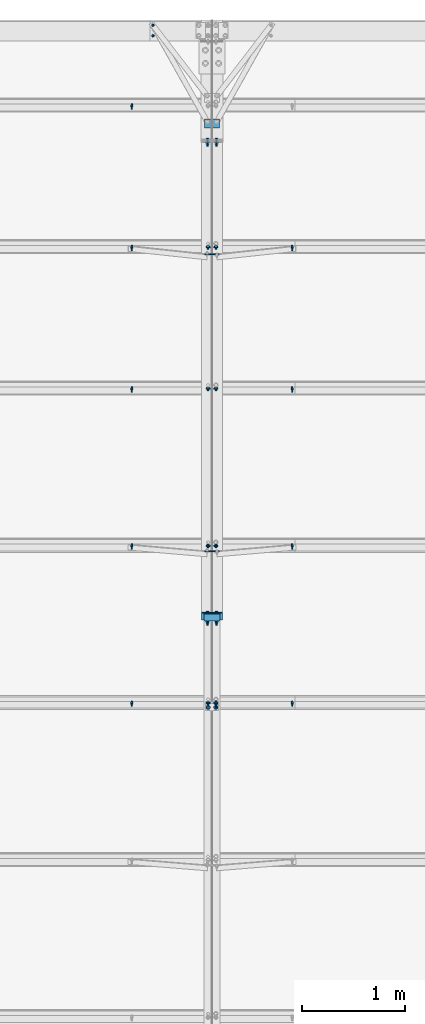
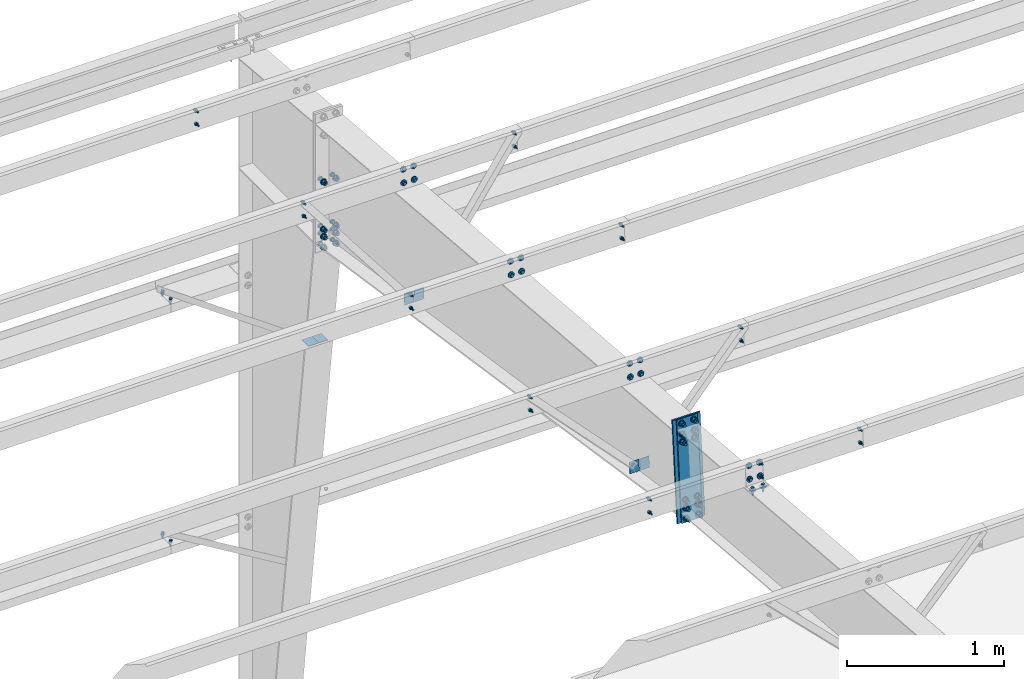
# One storey, part 96 of 185: 26 mechanical fasteners, 8 discrete accessories, 15 elements without a shape of their own.
"""IFC2X3 building model written with IfcOpenShell, lengths in millimetres."""

from ifc_helpers import new_model, si_unit, frame, origin_with_axes, origin_2d_with_axis, place, context, subcontext, project, spatial, polyline, rectangle, circle, outline, extrude, source, transform, mapped, material, type_object, element, aggregate, save


model = new_model("IFC2X3")

# Units and contexts
model_context = context("Model", 3, precision=1e-05, world=origin_with_axes())
body_context = subcontext(model_context, "Body", "Model", "MODEL_VIEW")
ifc_project = project(units=[si_unit("LENGTHUNIT", "METRE", prefix="MILLI"), si_unit("AREAUNIT", "SQUARE_METRE"), si_unit("VOLUMEUNIT", "CUBIC_METRE"), si_unit("MASSUNIT", "GRAM", prefix="KILO"), si_unit("TIMEUNIT", "SECOND"), si_unit("PLANEANGLEUNIT", "RADIAN"), si_unit("SOLIDANGLEUNIT", "STERADIAN"), si_unit("THERMODYNAMICTEMPERATUREUNIT", "DEGREE_CELSIUS"), si_unit("LUMINOUSINTENSITYUNIT", "LUMEN")], contexts=[model_context])

# Site, building, storey
site_placement = place(None, origin_with_axes())
site = spatial("IfcSite", under=ifc_project, at=site_placement, Name="Undefined", CompositionType="ELEMENT")
building_placement = place(site_placement, origin_with_axes())
building = spatial("IfcBuilding", under=site, at=building_placement, Name="Undefined", CompositionType="ELEMENT")
storey_placement = place(building_placement, origin_with_axes())
storey = spatial("IfcBuildingStorey", under=building, at=storey_placement, Name="Undefined", CompositionType="ELEMENT", Elevation=0.0)

# Assembly, mechanical fastener
assembly_1_placement = place(storey_placement, origin_with_axes())
assembly_1 = element("IfcElementAssembly", 1, at=assembly_1_placement, inside=storey, Name="Steel Assembly", AssemblyPlace="NOTDEFINED", PredefinedType="RIGID_FRAME")
ifc_material_1 = material(Name="Undefined")
discrete_accessory_type_1 = type_object("IfcDiscreteAccessoryType", Name="Bolt assembly")
shared_shape_1 = source(origin_with_axes(), body_context, "Body", "SweptSolid", [
    extrude(circle(Radius=7.14374971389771, at=origin_2d_with_axis()), frame((0.0, -1.59000001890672, 0.0), z_axis=(0.0, 1.0, 0.0), x_axis=(1.0, 0.0, 0.0)), (0.0, 0.0, 1.0), 3.3),
    extrude(circle(Radius=13.4937496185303, at=origin_2d_with_axis()), frame((0.0, -5.5587500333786, 0.0), z_axis=(0.0, 1.0, 0.0), x_axis=(1.0, 0.0, 0.0)), (0.0, 0.0, 1.0), 4.0),
    extrude(circle(Radius=22.2250003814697, at=origin_2d_with_axis()), frame((0.0, 1.5900000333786, 0.0), z_axis=(0.0, 1.0, 0.0), x_axis=(1.0, 0.0, 0.0)), (0.0, 0.0, 1.0), 7.9),
    extrude(outline(polyline([(12.8316099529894, 0.0), (6.4158049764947, 11.1125001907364), (-6.4158049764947, 11.1125001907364), (-12.8316099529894, 0.0), (-6.4158049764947, -11.1125001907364), (6.4158049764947, -11.1125001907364), (12.8316099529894, 0.0)])), frame((0.0, 9.5275000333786, 0.0), z_axis=(0.0, 1.0, 0.0), x_axis=(1.0, 0.0, 0.0)), (0.0, 0.0, 1.0), 12.3),
])
mechanical_fastener_1_placement = place(assembly_1_placement, frame((22440.9, 29818.2760586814, 6227.1675784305), z_axis=(-1.0, 0.0, 0.0), x_axis=(0.0, -0.0830454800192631, -0.996545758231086)))
mechanical_fastener_1 = element("IfcMechanicalFastener", 2, at=mechanical_fastener_1_placement, type_object=discrete_accessory_type_1, material=ifc_material_1, Name="Bolt assembly", NominalDiameter=12.6999998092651, NominalLength=38.0999984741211, context=body_context, shape_type="MappedRepresentation", body=[
    mapped(shared_shape_1, transform((0.0, 0.0, 0.0))),
    mapped(shared_shape_1, transform((101.599998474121, 0.0, 0.0))),
])
aggregate(assembly_1, [mechanical_fastener_1])

assembly_2_placement = place(storey_placement, origin_with_axes())
assembly_2 = element("IfcElementAssembly", 3, at=assembly_2_placement, inside=storey, Name="Steel Assembly", AssemblyPlace="NOTDEFINED", PredefinedType="RIGID_FRAME")
mechanical_fastener_2_placement = place(assembly_2_placement, frame((22517.1, 29818.2760586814, 6227.1675784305), z_axis=(-1.0, 0.0, 0.0), x_axis=(0.0, -0.0830454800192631, -0.996545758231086)))
mechanical_fastener_2 = element("IfcMechanicalFastener", 4, at=mechanical_fastener_2_placement, type_object=discrete_accessory_type_1, material=ifc_material_1, Name="Bolt assembly", NominalDiameter=12.6999998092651, NominalLength=38.0999984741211, context=body_context, shape_type="MappedRepresentation", body=[
    mapped(shared_shape_1, transform((0.0, 0.0, 0.0))),
    mapped(shared_shape_1, transform((101.599998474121, 0.0, 0.0))),
])

assembly_3_placement = place(storey_placement, origin_with_axes())
assembly_3 = element("IfcElementAssembly", 5, at=assembly_3_placement, inside=storey, Name="Steel Assembly", AssemblyPlace="NOTDEFINED", PredefinedType="RIGID_FRAME")
mechanical_fastener_3_placement = place(assembly_3_placement, frame((22440.9, 28451.4138966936, 6341.07275883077), z_axis=(-1.0, 0.0, 0.0), x_axis=(0.0, -0.0830454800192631, -0.996545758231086)))
mechanical_fastener_3 = element("IfcMechanicalFastener", 6, at=mechanical_fastener_3_placement, type_object=discrete_accessory_type_1, material=ifc_material_1, Name="Bolt assembly", NominalDiameter=12.6999998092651, NominalLength=38.0999984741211, context=body_context, shape_type="MappedRepresentation", body=[
    mapped(shared_shape_1, transform((0.0, 0.0, 0.0))),
    mapped(shared_shape_1, transform((101.599998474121, 0.0, 0.0))),
])
aggregate(assembly_3, [mechanical_fastener_3])

assembly_4_placement = place(storey_placement, origin_with_axes())
assembly_4 = element("IfcElementAssembly", 7, at=assembly_4_placement, inside=storey, Name="Steel Assembly", AssemblyPlace="NOTDEFINED", PredefinedType="RIGID_FRAME")
mechanical_fastener_4_placement = place(assembly_4_placement, frame((22517.1, 28451.4138966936, 6341.07275883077), z_axis=(-1.0, 0.0, 0.0), x_axis=(0.0, -0.0830454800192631, -0.996545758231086)))
mechanical_fastener_4 = element("IfcMechanicalFastener", 8, at=mechanical_fastener_4_placement, type_object=discrete_accessory_type_1, material=ifc_material_1, Name="Bolt assembly", NominalDiameter=12.6999998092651, NominalLength=38.0999984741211, context=body_context, shape_type="MappedRepresentation", body=[
    mapped(shared_shape_1, transform((0.0, 0.0, 0.0))),
    mapped(shared_shape_1, transform((101.599998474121, 0.0, 0.0))),
])

assembly_5_placement = place(storey_placement, origin_with_axes())
assembly_5 = element("IfcElementAssembly", 9, at=assembly_5_placement, inside=storey, Name="Steel Assembly", AssemblyPlace="NOTDEFINED", PredefinedType="RIGID_FRAME")
mechanical_fastener_5_placement = place(assembly_5_placement, frame((22440.9, 26932.6781611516, 6467.63407038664), z_axis=(-1.0, 0.0, 0.0), x_axis=(0.0, -0.0830454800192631, -0.996545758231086)))
mechanical_fastener_5 = element("IfcMechanicalFastener", 10, at=mechanical_fastener_5_placement, type_object=discrete_accessory_type_1, material=ifc_material_1, Name="Bolt assembly", NominalDiameter=12.6999998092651, NominalLength=38.0999984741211, context=body_context, shape_type="MappedRepresentation", body=[
    mapped(shared_shape_1, transform((0.0, 0.0, 0.0))),
    mapped(shared_shape_1, transform((101.599998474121, 0.0, 0.0))),
])
aggregate(assembly_5, [mechanical_fastener_5])

assembly_6_placement = place(storey_placement, origin_with_axes())
assembly_6 = element("IfcElementAssembly", 11, at=assembly_6_placement, inside=storey, Name="Steel Assembly", AssemblyPlace="NOTDEFINED", PredefinedType="RIGID_FRAME")
mechanical_fastener_6_placement = place(assembly_6_placement, frame((22517.1, 26932.6781611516, 6467.63407038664), z_axis=(-1.0, 0.0, 0.0), x_axis=(0.0, -0.0830454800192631, -0.996545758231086)))
mechanical_fastener_6 = element("IfcMechanicalFastener", 12, at=mechanical_fastener_6_placement, type_object=discrete_accessory_type_1, material=ifc_material_1, Name="Bolt assembly", NominalDiameter=12.6999998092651, NominalLength=38.0999984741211, context=body_context, shape_type="MappedRepresentation", body=[
    mapped(shared_shape_1, transform((0.0, 0.0, 0.0))),
    mapped(shared_shape_1, transform((101.599998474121, 0.0, 0.0))),
])

assembly_7_placement = place(storey_placement, origin_with_axes())
assembly_7 = element("IfcElementAssembly", 13, at=assembly_7_placement, inside=storey, Name="Steel Assembly", AssemblyPlace="NOTDEFINED", PredefinedType="RIGID_FRAME")
mechanical_fastener_7_placement = place(assembly_7_placement, frame((22440.9, 25413.9424255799, 6594.1953819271), z_axis=(-1.0, 0.0, 0.0), x_axis=(0.0, -0.0830454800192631, -0.996545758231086)))
mechanical_fastener_7 = element("IfcMechanicalFastener", 14, at=mechanical_fastener_7_placement, type_object=discrete_accessory_type_1, material=ifc_material_1, Name="Bolt assembly", NominalDiameter=12.6999998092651, NominalLength=38.0999984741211, context=body_context, shape_type="MappedRepresentation", body=[
    mapped(shared_shape_1, transform((0.0, 0.0, 0.0))),
    mapped(shared_shape_1, transform((101.599998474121, 0.0, 0.0))),
])
aggregate(assembly_7, [mechanical_fastener_7])

assembly_8_placement = place(storey_placement, origin_with_axes())
assembly_8 = element("IfcElementAssembly", 15, at=assembly_8_placement, inside=storey, Name="Steel Assembly", AssemblyPlace="NOTDEFINED", PredefinedType="RIGID_FRAME")
mechanical_fastener_8_placement = place(assembly_8_placement, frame((22517.1, 25413.9424256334, 6594.1953826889), z_axis=(-1.0, 0.0, 0.0), x_axis=(0.0, -0.0830454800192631, -0.996545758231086)))
mechanical_fastener_8 = element("IfcMechanicalFastener", 16, at=mechanical_fastener_8_placement, type_object=discrete_accessory_type_1, material=ifc_material_1, Name="Bolt assembly", NominalDiameter=12.6999998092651, NominalLength=38.0999984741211, context=body_context, shape_type="MappedRepresentation", body=[
    mapped(shared_shape_1, transform((0.0, 0.0, 0.0))),
    mapped(shared_shape_1, transform((101.599998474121, 0.0, 0.0))),
])

# Assembly, discrete accessories
assembly_9_placement = place(storey_placement, origin_with_axes())
assembly_9 = element("IfcElementAssembly", 17, at=assembly_9_placement, inside=storey, Name="Steel Assembly", AssemblyPlace="NOTDEFINED", PredefinedType="RIGID_FRAME")
ifc_material_2 = material(Name="STEEL/55")
discrete_accessory_type_2 = type_object("IfcDiscreteAccessoryType", Name="FLANGE BRACE FLIP")
discrete_accessory_1_placement = place(assembly_9_placement, frame((22481.38125, 31003.9296133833, 4163.892), z_axis=(0.0, 1.0, 0.0), x_axis=(1.0, 0.0, 0.0)))
discrete_accessory_1 = element("IfcDiscreteAccessory", 18, at=discrete_accessory_1_placement, type_object=discrete_accessory_type_2, material=ifc_material_2, Name="FLANGE BRACE FLIP", ObjectType="PL1/8\"X2 3/4\"", context=body_context, shape_type="SweptSolid", body=[
    extrude(rectangle(XDim=3.416, YDim=85.725, at=origin_2d_with_axis()), frame((69.8499999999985, 0.0, 0.0), z_axis=(-1.0, 0.0, 0.0), x_axis=(0.0, -1.0, 0.0)), (0.0, 0.0, 1.0), 69.8),
])
discrete_accessory_2_placement = place(assembly_9_placement, frame((22476.61875, 31003.9296133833, 4163.892), z_axis=(0.0, 1.0, 0.0), x_axis=(-1.0, 0.0, 0.0)))
discrete_accessory_2 = element("IfcDiscreteAccessory", 19, at=discrete_accessory_2_placement, type_object=discrete_accessory_type_2, material=ifc_material_2, Name="FLANGE BRACE FLIP", ObjectType="PL1/8\"X2 3/4\"", context=body_context, shape_type="SweptSolid", body=[
    extrude(rectangle(XDim=3.416, YDim=85.725, at=origin_2d_with_axis()), frame((69.8499999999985, 0.0, 0.0), z_axis=(-1.0, 0.0, 0.0), x_axis=(0.0, -1.0, 0.0)), (0.0, 0.0, 1.0), 69.8),
])

assembly_10_placement = place(storey_placement, origin_with_axes())
assembly_10 = element("IfcElementAssembly", 20, at=assembly_10_placement, inside=storey, Name="Steel Assembly", AssemblyPlace="NOTDEFINED", PredefinedType="RIGID_FRAME")
discrete_accessory_3_placement = place(assembly_10_placement, frame((22476.619, 26870.4225230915, 5699.99936980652), z_axis=(0.0, 0.0830454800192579, 0.996545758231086), x_axis=(-1.0, 0.0, 0.0)))
discrete_accessory_3 = element("IfcDiscreteAccessory", 21, at=discrete_accessory_3_placement, type_object=discrete_accessory_type_2, material=ifc_material_2, Name="FLANGE BRACE FLIP", ObjectType="PL1/8\"X2 3/4\"", context=body_context, shape_type="SweptSolid", body=[
    extrude(rectangle(XDim=3.416, YDim=85.725, at=origin_2d_with_axis()), frame((69.8499999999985, 0.0, 0.0), z_axis=(-1.0, 0.0, 0.0), x_axis=(0.0, -1.0, 0.0)), (0.0, 0.0, 1.0), 69.8),
])
discrete_accessory_4_placement = place(assembly_10_placement, frame((22481.381, 26870.4225230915, 5699.99936980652), z_axis=(0.0, 0.0830454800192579, 0.996545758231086), x_axis=(1.0, 0.0, 0.0)))
discrete_accessory_4 = element("IfcDiscreteAccessory", 22, at=discrete_accessory_4_placement, type_object=discrete_accessory_type_2, material=ifc_material_2, Name="FLANGE BRACE FLIP", ObjectType="PL1/8\"X2 3/4\"", context=body_context, shape_type="SweptSolid", body=[
    extrude(rectangle(XDim=3.416, YDim=85.725, at=origin_2d_with_axis()), frame((69.8499999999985, 0.0, 0.0), z_axis=(-1.0, 0.0, 0.0), x_axis=(0.0, -1.0, 0.0)), (0.0, 0.0, 1.0), 69.8),
])
discrete_accessory_5_placement = place(assembly_10_placement, frame((22476.619, 29740.2521226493, 5270.31330232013), z_axis=(0.0, 0.0830454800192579, 0.996545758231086), x_axis=(-1.0, 0.0, 0.0)))
discrete_accessory_5 = element("IfcDiscreteAccessory", 23, at=discrete_accessory_5_placement, type_object=discrete_accessory_type_2, material=ifc_material_2, Name="FLANGE BRACE FLIP", ObjectType="PL1/8\"X2 3/4\"", context=body_context, shape_type="SweptSolid", body=[
    extrude(rectangle(XDim=3.416, YDim=85.725, at=origin_2d_with_axis()), frame((69.8499999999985, 0.0, 0.0), z_axis=(-1.0, 0.0, 0.0), x_axis=(0.0, -1.0, 0.0)), (0.0, 0.0, 1.0), 69.8),
])
discrete_accessory_6_placement = place(assembly_10_placement, frame((22481.381, 29740.2521226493, 5270.31330232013), z_axis=(0.0, 0.0830454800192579, 0.996545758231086), x_axis=(1.0, 0.0, 0.0)))
discrete_accessory_6 = element("IfcDiscreteAccessory", 24, at=discrete_accessory_6_placement, type_object=discrete_accessory_type_2, material=ifc_material_2, Name="FLANGE BRACE FLIP", ObjectType="PL1/8\"X2 3/4\"", context=body_context, shape_type="SweptSolid", body=[
    extrude(rectangle(XDim=3.416, YDim=85.725, at=origin_2d_with_axis()), frame((69.8499999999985, 0.0, 0.0), z_axis=(-1.0, 0.0, 0.0), x_axis=(0.0, -1.0, 0.0)), (0.0, 0.0, 1.0), 69.8),
])

# Assembly, mechanical fasteners
assembly_11_placement = place(storey_placement, origin_with_axes())
assembly_11 = element("IfcElementAssembly", 25, at=assembly_11_placement, inside=storey, Name="Steel Assembly", AssemblyPlace="NOTDEFINED", PredefinedType="RIGID_FRAME")
shared_shape_2 = source(origin_with_axes(), body_context, "Body", "SweptSolid", [
    extrude(circle(Radius=7.14374971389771, at=origin_2d_with_axis()), frame((0.0, 0.0, 0.0), z_axis=(0.0, 1.0, 0.0), x_axis=(1.0, 0.0, 0.0)), (0.0, 0.0, 1.0), 4.9),
    extrude(outline(polyline([(12.8316099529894, 0.0), (6.4158049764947, 11.1125001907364), (-6.4158049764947, 11.1125001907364), (-12.8316099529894, 0.0), (-6.4158049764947, -11.1125001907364), (6.4158049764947, -11.1125001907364), (12.8316099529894, 0.0)])), frame((0.0, 4.76000382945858, 0.0), z_axis=(0.0, 1.0, 0.0), x_axis=(1.0, 0.0, 0.0)), (0.0, 0.0, 1.0), 12.3),
])
mechanical_fastener_9_placement = place(assembly_11_placement, frame((22440.9, 25413.9424255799, 6594.1953819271), z_axis=(-1.0, 0.0, 0.0), x_axis=(0.0, -0.0830454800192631, -0.996545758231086)))
mechanical_fastener_9 = element("IfcMechanicalFastener", 26, at=mechanical_fastener_9_placement, type_object=discrete_accessory_type_1, material=ifc_material_1, Name="Bolt assembly", NominalDiameter=12.6999998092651, NominalLength=50.7999992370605, context=body_context, shape_type="MappedRepresentation", body=[
    mapped(shared_shape_2, transform((0.0, 0.0, 0.0))),
    mapped(shared_shape_2, transform((101.599998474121, 0.0, 0.0))),
])
shared_shape_3 = source(origin_with_axes(), body_context, "Body", "SweptSolid", [
    extrude(circle(Radius=7.14374971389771, at=origin_2d_with_axis()), frame((0.0, 0.0, 0.0), z_axis=(0.0, 1.0, 0.0), x_axis=(1.0, 0.0, 0.0)), (0.0, 0.0, 1.0), 4.9),
    extrude(outline(polyline([(12.8316099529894, 0.0), (6.4158049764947, 11.1125001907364), (-6.4158049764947, 11.1125001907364), (-12.8316099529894, 0.0), (-6.4158049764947, -11.1125001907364), (6.4158049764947, -11.1125001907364), (12.8316099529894, 0.0)])), frame((0.0, -11.9062498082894, 0.0), z_axis=(0.0, 1.0, 0.0), x_axis=(1.0, 0.0, 0.0)), (0.0, 0.0, 1.0), 7.9),
    extrude(circle(Radius=6.34999990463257, at=origin_2d_with_axis()), frame((0.0, -3.96874999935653, 0.0), z_axis=(0.0, 1.0, 0.0), x_axis=(1.0, 0.0, 0.0)), (0.0, 0.0, 1.0), 50.8),
    extrude(circle(Radius=13.4937496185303, at=origin_2d_with_axis()), frame((0.0, -3.96874999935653, 0.0), z_axis=(0.0, 1.0, 0.0), x_axis=(1.0, 0.0, 0.0)), (0.0, 0.0, 1.0), 4.0),
    extrude(circle(Radius=22.2250003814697, at=origin_2d_with_axis()), frame((0.0, 4.76000382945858, 0.0), z_axis=(0.0, 1.0, 0.0), x_axis=(1.0, 0.0, 0.0)), (0.0, 0.0, 1.0), 7.9),
    extrude(outline(polyline([(12.8316099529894, 0.0), (6.4158049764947, 11.1125001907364), (-6.4158049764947, 11.1125001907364), (-12.8316099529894, 0.0), (-6.4158049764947, -11.1125001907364), (6.4158049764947, -11.1125001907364), (12.8316099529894, 0.0)])), frame((0.0, 12.6975038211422, 0.0), z_axis=(0.0, 1.0, 0.0), x_axis=(1.0, 0.0, 0.0)), (0.0, 0.0, 1.0), 12.3),
])
mechanical_fastener_10_placement = place(assembly_11_placement, frame((22517.1, 25413.9424256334, 6594.1953826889), z_axis=(-1.0, 0.0, 0.0), x_axis=(0.0, -0.0830454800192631, -0.996545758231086)))
mechanical_fastener_10 = element("IfcMechanicalFastener", 27, at=mechanical_fastener_10_placement, type_object=discrete_accessory_type_1, material=ifc_material_1, Name="Bolt assembly", NominalDiameter=12.6999998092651, NominalLength=50.7999992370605, context=body_context, shape_type="MappedRepresentation", body=[
    mapped(shared_shape_3, transform((0.0, 0.0, 0.0))),
    mapped(shared_shape_3, transform((101.599998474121, 0.0, 0.0))),
])
aggregate(assembly_11, [mechanical_fastener_9, mechanical_fastener_10])

# Assembly, mechanical fastener
assembly_12_placement = place(storey_placement, origin_with_axes())
assembly_12 = element("IfcElementAssembly", 28, at=assembly_12_placement, inside=storey, Name="Steel Assembly", AssemblyPlace="NOTDEFINED", PredefinedType="RIGID_FRAME")
shared_shape_4 = source(origin_with_axes(), body_context, "Body", "SweptSolid", [
    extrude(circle(Radius=7.14374971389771, at=origin_2d_with_axis()), frame((0.0, 0.0761985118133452, 0.0), z_axis=(0.0, 1.0, 0.0), x_axis=(1.0, 0.0, 0.0)), (0.0, 0.0, 1.0), 8.0),
    extrude(outline(polyline([(12.8316099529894, 0.0), (6.4158049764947, 11.1125001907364), (-6.4158049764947, 11.1125001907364), (-12.8316099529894, 0.0), (-6.4158049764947, -11.1125001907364), (6.4158049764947, -11.1125001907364), (12.8316099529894, 0.0)])), frame((0.0, -7.86130148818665, 0.0), z_axis=(0.0, 1.0, 0.0), x_axis=(1.0, 0.0, 0.0)), (0.0, 0.0, 1.0), 7.9),
    extrude(circle(Radius=6.34999990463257, at=origin_2d_with_axis()), frame((0.0, 0.0761985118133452, 0.0), z_axis=(0.0, 1.0, 0.0), x_axis=(1.0, 0.0, 0.0)), (0.0, 0.0, 1.0), 50.8),
    extrude(circle(Radius=22.2250003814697, at=origin_2d_with_axis()), frame((0.0, 7.95019856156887, 0.0), z_axis=(0.0, 1.0, 0.0), x_axis=(1.0, 0.0, 0.0)), (0.0, 0.0, 1.0), 7.9),
    extrude(outline(polyline([(12.8316099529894, 0.0), (6.4158049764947, 11.1125001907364), (-6.4158049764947, 11.1125001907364), (-12.8316099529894, 0.0), (-6.4158049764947, -11.1125001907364), (6.4158049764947, -11.1125001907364), (12.8316099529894, 0.0)])), frame((0.0, 15.8876985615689, 0.0), z_axis=(0.0, 1.0, 0.0), x_axis=(1.0, 0.0, 0.0)), (0.0, 0.0, 1.0), 12.3),
])
mechanical_fastener_11_placement = place(assembly_12_placement, frame((22479.0, 25363.3179025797, 6445.48584102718), z_axis=(1.0, 0.0, 0.0), x_axis=(0.0, -0.996545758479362, 0.0830454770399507)))
mechanical_fastener_11 = element("IfcMechanicalFastener", 29, at=mechanical_fastener_11_placement, type_object=discrete_accessory_type_1, material=ifc_material_1, Name="Bolt assembly", NominalDiameter=12.6999998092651, NominalLength=50.7999992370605, context=body_context, shape_type="MappedRepresentation", body=[
    mapped(shared_shape_4, transform((0.0, 0.0, -38.0999984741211))),
    mapped(shared_shape_4, transform((0.0, 0.0, 38.0999984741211))),
])

# Mechanical fastener
shared_shape_5 = source(origin_with_axes(), body_context, "Body", "SweptSolid", [
    extrude(circle(Radius=7.14374971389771, at=origin_2d_with_axis()), frame((0.0, -1.4900000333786, 0.0), z_axis=(0.0, 1.0, 0.0), x_axis=(1.0, 0.0, 0.0)), (0.0, 0.0, 1.0), 3.2),
    extrude(circle(Radius=7.14374971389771, at=origin_2d_with_axis()), frame((0.0, -1.4900000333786, 0.0), z_axis=(0.0, 1.0, 0.0), x_axis=(1.0, 0.0, 0.0)), (0.0, 0.0, 1.0), 3.2),
    extrude(outline(polyline([(10.9985221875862, 0.0), (5.4992610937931, 9.52499961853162), (-5.4992610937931, 9.52499961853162), (-10.9985221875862, 0.0), (-5.4992610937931, -9.52499961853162), (5.4992610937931, -9.52499961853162), (10.9985221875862, 0.0)])), frame((0.0, -11.1149996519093, 0.0), z_axis=(0.0, 1.0, 0.0), x_axis=(1.0, 0.0, 0.0)), (0.0, 0.0, 1.0), 9.5),
    extrude(circle(Radius=6.34999990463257, at=origin_2d_with_axis()), frame((0.0, -1.59000001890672, 0.0), z_axis=(0.0, 1.0, 0.0), x_axis=(1.0, 0.0, 0.0)), (0.0, 0.0, 1.0), 38.1),
    extrude(outline(polyline([(12.8316099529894, 0.0), (6.4158049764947, 11.1125001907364), (-6.4158049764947, 11.1125001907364), (-12.8316099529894, 0.0), (-6.4158049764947, -11.1125001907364), (6.4158049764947, -11.1125001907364), (12.8316099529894, 0.0)])), frame((0.0, 1.5900000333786, 0.0), z_axis=(0.0, 1.0, 0.0), x_axis=(1.0, 0.0, 0.0)), (0.0, 0.0, 1.0), 12.3),
])
mechanical_fastener_12_placement = place(assembly_8_placement, frame((21704.3, 25413.9424255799, 6594.19538192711), z_axis=(-1.0, 0.0, 0.0), x_axis=(0.0, -0.0830454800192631, -0.996545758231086)))
mechanical_fastener_12 = element("IfcMechanicalFastener", 30, at=mechanical_fastener_12_placement, type_object=discrete_accessory_type_1, material=ifc_material_1, Name="Bolt assembly", NominalDiameter=12.6999998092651, NominalLength=38.0999984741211, context=body_context, shape_type="MappedRepresentation", body=[
    mapped(shared_shape_5, transform((0.0, 0.0, 0.0))),
    mapped(shared_shape_5, transform((101.599998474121, 0.0, 0.0))),
])

mechanical_fastener_13_placement = place(assembly_8_placement, frame((23253.7, 25413.9424255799, 6594.1953819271), z_axis=(-1.0, 0.0, 0.0), x_axis=(0.0, -0.0830454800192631, -0.996545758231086)))
mechanical_fastener_13 = element("IfcMechanicalFastener", 31, at=mechanical_fastener_13_placement, type_object=discrete_accessory_type_1, material=ifc_material_1, Name="Bolt assembly", NominalDiameter=12.6999998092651, NominalLength=38.0999984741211, context=body_context, shape_type="MappedRepresentation", body=[
    mapped(shared_shape_5, transform((0.0, 0.0, 0.0))),
    mapped(shared_shape_5, transform((101.599998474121, 0.0, 0.0))),
])

aggregate(assembly_8, [mechanical_fastener_12, mechanical_fastener_13, mechanical_fastener_8])

# Assembly, mechanical fastener
assembly_13_placement = place(storey_placement, origin_with_axes())
assembly_13 = element("IfcElementAssembly", 32, at=assembly_13_placement, inside=storey, Name="Steel Assembly", AssemblyPlace="NOTDEFINED", PredefinedType="RIGID_FRAME")
mechanical_fastener_14_placement = place(assembly_13_placement, frame((21907.5, 31953.2, 2286.0), z_axis=(1.0, 0.0, 0.0), x_axis=(0.0, -1.0, 0.0)))
mechanical_fastener_14 = element("IfcMechanicalFastener", 33, at=mechanical_fastener_14_placement, type_object=discrete_accessory_type_1, material=ifc_material_1, Name="Bolt assembly", NominalDiameter=12.6999998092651, NominalLength=38.0999984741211, context=body_context, shape_type="MappedRepresentation", body=[
    mapped(shared_shape_5, transform((0.0, 0.0, 0.0))),
    mapped(shared_shape_5, transform((101.599998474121, 0.0, 0.0))),
])
aggregate(assembly_13, [mechanical_fastener_14])

assembly_14_placement = place(storey_placement, origin_with_axes())
assembly_14 = element("IfcElementAssembly", 34, at=assembly_14_placement, inside=storey, Name="Steel Assembly", AssemblyPlace="NOTDEFINED", PredefinedType="RIGID_FRAME")
mechanical_fastener_15_placement = place(assembly_14_placement, frame((21907.5, 31953.2, 4165.6), z_axis=(1.0, 0.0, 0.0), x_axis=(0.0, -1.0, 0.0)))
mechanical_fastener_15 = element("IfcMechanicalFastener", 35, at=mechanical_fastener_15_placement, type_object=discrete_accessory_type_1, material=ifc_material_1, Name="Bolt assembly", NominalDiameter=12.6999998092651, NominalLength=38.0999984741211, context=body_context, shape_type="MappedRepresentation", body=[
    mapped(shared_shape_5, transform((0.0, 0.0, 0.0))),
    mapped(shared_shape_5, transform((101.599998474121, 0.0, 0.0))),
])
aggregate(assembly_14, [mechanical_fastener_15])

assembly_15_placement = place(storey_placement, origin_with_axes())
assembly_15 = element("IfcElementAssembly", 36, at=assembly_15_placement, inside=storey, Name="Steel Assembly", AssemblyPlace="NOTDEFINED", PredefinedType="RIGID_FRAME")
mechanical_fastener_16_placement = place(assembly_15_placement, frame((21704.3, 31185.1382206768, 6113.2623980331), z_axis=(-1.0, 0.0, 0.0), x_axis=(0.0, -0.0830454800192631, -0.996545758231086)))
mechanical_fastener_16 = element("IfcMechanicalFastener", 37, at=mechanical_fastener_16_placement, type_object=discrete_accessory_type_1, material=ifc_material_1, Name="Bolt assembly", NominalDiameter=12.6999998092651, NominalLength=38.0999984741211, context=body_context, shape_type="MappedRepresentation", body=[
    mapped(shared_shape_5, transform((0.0, 0.0, 0.0))),
    mapped(shared_shape_5, transform((101.599998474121, 0.0, 0.0))),
])
aggregate(assembly_15, [mechanical_fastener_16])

# Mechanical fastener
mechanical_fastener_17_placement = place(assembly_2_placement, frame((21704.3, 29818.2760586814, 6227.1675784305), z_axis=(-1.0, 0.0, 0.0), x_axis=(0.0, -0.0830454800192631, -0.996545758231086)))
mechanical_fastener_17 = element("IfcMechanicalFastener", 38, at=mechanical_fastener_17_placement, type_object=discrete_accessory_type_1, material=ifc_material_1, Name="Bolt assembly", NominalDiameter=12.6999998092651, NominalLength=38.0999984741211, context=body_context, shape_type="MappedRepresentation", body=[
    mapped(shared_shape_5, transform((0.0, 0.0, 0.0))),
    mapped(shared_shape_5, transform((101.599998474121, 0.0, 0.0))),
])

mechanical_fastener_18_placement = place(assembly_2_placement, frame((23253.7, 29818.2760586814, 6227.1675784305), z_axis=(-1.0, 0.0, 0.0), x_axis=(0.0, -0.0830454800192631, -0.996545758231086)))
mechanical_fastener_18 = element("IfcMechanicalFastener", 39, at=mechanical_fastener_18_placement, type_object=discrete_accessory_type_1, material=ifc_material_1, Name="Bolt assembly", NominalDiameter=12.6999998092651, NominalLength=38.0999984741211, context=body_context, shape_type="MappedRepresentation", body=[
    mapped(shared_shape_5, transform((0.0, 0.0, 0.0))),
    mapped(shared_shape_5, transform((101.599998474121, 0.0, 0.0))),
])

aggregate(assembly_2, [mechanical_fastener_2, mechanical_fastener_17, mechanical_fastener_18])

mechanical_fastener_19_placement = place(assembly_4_placement, frame((21704.3, 28451.4138966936, 6341.07275883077), z_axis=(-1.0, 0.0, 0.0), x_axis=(0.0, -0.0830454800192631, -0.996545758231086)))
mechanical_fastener_19 = element("IfcMechanicalFastener", 40, at=mechanical_fastener_19_placement, type_object=discrete_accessory_type_1, material=ifc_material_1, Name="Bolt assembly", NominalDiameter=12.6999998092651, NominalLength=38.0999984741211, context=body_context, shape_type="MappedRepresentation", body=[
    mapped(shared_shape_5, transform((0.0, 0.0, 0.0))),
    mapped(shared_shape_5, transform((101.599998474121, 0.0, 0.0))),
])

mechanical_fastener_20_placement = place(assembly_4_placement, frame((23253.7, 28451.4138966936, 6341.07275883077), z_axis=(-1.0, 0.0, 0.0), x_axis=(0.0, -0.0830454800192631, -0.996545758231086)))
mechanical_fastener_20 = element("IfcMechanicalFastener", 41, at=mechanical_fastener_20_placement, type_object=discrete_accessory_type_1, material=ifc_material_1, Name="Bolt assembly", NominalDiameter=12.6999998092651, NominalLength=38.0999984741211, context=body_context, shape_type="MappedRepresentation", body=[
    mapped(shared_shape_5, transform((0.0, 0.0, 0.0))),
    mapped(shared_shape_5, transform((101.599998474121, 0.0, 0.0))),
])

aggregate(assembly_4, [mechanical_fastener_4, mechanical_fastener_19, mechanical_fastener_20])

mechanical_fastener_21_placement = place(assembly_6_placement, frame((21704.3, 26932.6781611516, 6467.63407038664), z_axis=(-1.0, 0.0, 0.0), x_axis=(0.0, -0.0830454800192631, -0.996545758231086)))
mechanical_fastener_21 = element("IfcMechanicalFastener", 42, at=mechanical_fastener_21_placement, type_object=discrete_accessory_type_1, material=ifc_material_1, Name="Bolt assembly", NominalDiameter=12.6999998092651, NominalLength=38.0999984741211, context=body_context, shape_type="MappedRepresentation", body=[
    mapped(shared_shape_5, transform((0.0, 0.0, 0.0))),
    mapped(shared_shape_5, transform((101.599998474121, 0.0, 0.0))),
])

mechanical_fastener_22_placement = place(assembly_6_placement, frame((23253.7, 26932.6781611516, 6467.63407038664), z_axis=(-1.0, 0.0, 0.0), x_axis=(0.0, -0.0830454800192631, -0.996545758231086)))
mechanical_fastener_22 = element("IfcMechanicalFastener", 43, at=mechanical_fastener_22_placement, type_object=discrete_accessory_type_1, material=ifc_material_1, Name="Bolt assembly", NominalDiameter=12.6999998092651, NominalLength=38.0999984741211, context=body_context, shape_type="MappedRepresentation", body=[
    mapped(shared_shape_5, transform((0.0, 0.0, 0.0))),
    mapped(shared_shape_5, transform((101.599998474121, 0.0, 0.0))),
])

aggregate(assembly_6, [mechanical_fastener_6, mechanical_fastener_21, mechanical_fastener_22])

shared_shape_6 = source(origin_with_axes(), body_context, "Body", "SweptSolid", [
    extrude(circle(Radius=10.3187494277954, at=origin_2d_with_axis()), frame((0.0, -0.1, 0.0), z_axis=(0.0, 1.0, 0.0), x_axis=(1.0, 0.0, 0.0)), (0.0, 0.0, 1.0), 15.8),
    extrude(circle(Radius=10.3187494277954, at=origin_2d_with_axis()), frame((0.0, -15.775, 0.0), z_axis=(0.0, 1.0, 0.0), x_axis=(1.0, 0.0, 0.0)), (0.0, 0.0, 1.0), 15.9),
    extrude(outline(polyline([(18.3308710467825, 0.0), (9.16543552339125, 15.8750000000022), (-9.16543552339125, 15.8750000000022), (-18.3308710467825, 0.0), (-9.16543552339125, -15.8750000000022), (9.16543552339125, -15.8750000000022), (18.3308710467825, 0.0)])), frame((0.0, -27.78125, 0.0), z_axis=(0.0, 1.0, 0.0), x_axis=(1.0, 0.0, 0.0)), (0.0, 0.0, 1.0), 11.9),
    extrude(circle(Radius=9.52499961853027, at=origin_2d_with_axis()), frame((0.0, -15.8750000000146, 0.0), z_axis=(0.0, 1.0, 0.0), x_axis=(1.0, 0.0, 0.0)), (0.0, 0.0, 1.0), 69.8),
    extrude(circle(Radius=22.2250003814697, at=origin_2d_with_axis()), frame((0.0, 15.7480000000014, 0.0), z_axis=(0.0, 1.0, 0.0), x_axis=(1.0, 0.0, 0.0)), (0.0, 0.0, 1.0), 7.9),
    extrude(outline(polyline([(18.3308710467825, 0.0), (9.16543552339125, 15.8750000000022), (-9.16543552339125, 15.8750000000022), (-18.3308710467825, 0.0), (-9.16543552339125, -15.8750000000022), (9.16543552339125, -15.8750000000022), (18.3308710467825, 0.0)])), frame((0.0, 23.6855000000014, 0.0), z_axis=(0.0, 1.0, 0.0), x_axis=(1.0, 0.0, 0.0)), (0.0, 0.0, 1.0), 19.0),
])
mechanical_fastener_23_placement = place(assembly_9_placement, frame((22479.0, 30837.251, 5522.69198446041), z_axis=(-1.0, 0.0, 0.0), x_axis=(0.0, 0.0, -1.0)))
mechanical_fastener_23 = element("IfcMechanicalFastener", 44, at=mechanical_fastener_23_placement, type_object=discrete_accessory_type_1, material=ifc_material_1, Name="Bolt assembly", NominalDiameter=19.0499992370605, NominalLength=69.8499984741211, context=body_context, shape_type="MappedRepresentation", body=[
    mapped(shared_shape_6, transform((0.0, 0.0, -44.4500007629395))),
    mapped(shared_shape_6, transform((0.0, 0.0, 44.4500007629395))),
])

mechanical_fastener_24_placement = place(assembly_9_placement, frame((22479.0, 30837.251, 5016.27948446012), z_axis=(1.0, 0.0, 0.0), x_axis=(0.0, 0.0, 1.0)))
mechanical_fastener_24 = element("IfcMechanicalFastener", 45, at=mechanical_fastener_24_placement, type_object=discrete_accessory_type_1, material=ifc_material_1, Name="Bolt assembly", NominalDiameter=19.0499992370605, NominalLength=69.8499984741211, context=body_context, shape_type="MappedRepresentation", body=[
    mapped(shared_shape_6, transform((0.0, 0.0, -44.4500007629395))),
    mapped(shared_shape_6, transform((82.5500030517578, 0.0, -44.4500007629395))),
    mapped(shared_shape_6, transform((139.699996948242, 0.0, -44.4500007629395))),
    mapped(shared_shape_6, transform((0.0, 0.0, 44.4500007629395))),
    mapped(shared_shape_6, transform((82.5500030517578, 0.0, 44.4500007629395))),
    mapped(shared_shape_6, transform((139.699996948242, 0.0, 44.4500007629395))),
])

aggregate(assembly_9, [mechanical_fastener_23, discrete_accessory_1, discrete_accessory_2, mechanical_fastener_24])

# Discrete accessory
discrete_accessory_type_3 = type_object("IfcDiscreteAccessoryType", Name="Start Splice Plate")
discrete_accessory_7_placement = place(assembly_12_placement, frame((22479.0, 26267.033405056, 6441.84859146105), z_axis=(-1.0, 0.0, 0.0), x_axis=(0.0, -0.0830454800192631, -0.996545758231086)))
discrete_accessory_7 = element("IfcDiscreteAccessory", 46, at=discrete_accessory_7_placement, type_object=discrete_accessory_type_3, material=ifc_material_2, Name="Start Splice Plate", ObjectType="PL3/8\"X6\"", context=body_context, shape_type="SweptSolid", body=[
    extrude(rectangle(XDim=9.652, YDim=152.4, at=origin_2d_with_axis()), frame((768.349996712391, 0.0, 0.0), z_axis=(-1.0, 0.0, 0.0), x_axis=(0.0, -1.0, 0.0)), (0.0, 0.0, 1.0), 768.3),
])

aggregate(assembly_12, [mechanical_fastener_11, discrete_accessory_7])

discrete_accessory_type_4 = type_object("IfcDiscreteAccessoryType", Name="End Splice Plate")
discrete_accessory_8_placement = place(assembly_10_placement, frame((22479.0, 26278.1708004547, 6440.92047408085), z_axis=(-1.0, 0.0, 0.0), x_axis=(0.0, -0.0830454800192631, -0.996545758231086)))
discrete_accessory_8 = element("IfcDiscreteAccessory", 47, at=discrete_accessory_8_placement, type_object=discrete_accessory_type_4, material=ifc_material_2, Name="End Splice Plate", ObjectType="FL1/2\"X8\"", context=body_context, shape_type="SweptSolid", body=[
    extrude(rectangle(XDim=12.7, YDim=203.2, at=origin_2d_with_axis()), frame((768.349996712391, 0.0, 0.0), z_axis=(-1.0, 0.0, 0.0), x_axis=(0.0, -1.0, 0.0)), (0.0, 0.0, 1.0), 768.3),
])

# Mechanical fastener
shared_shape_7 = source(origin_with_axes(), body_context, "Body", "SweptSolid", [
    extrude(circle(Radius=10.3187494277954, at=origin_2d_with_axis()), frame((0.0, -0.1, 0.0), z_axis=(0.0, 1.0, 0.0), x_axis=(1.0, 0.0, 0.0)), (0.0, 0.0, 1.0), 9.8),
    extrude(circle(Radius=10.3187494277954, at=origin_2d_with_axis()), frame((0.0, -12.5999999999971, 0.0), z_axis=(0.0, 1.0, 0.0), x_axis=(1.0, 0.0, 0.0)), (0.0, 0.0, 1.0), 12.7),
    extrude(outline(polyline([(18.3308710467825, 0.0), (9.16543552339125, 15.8750000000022), (-9.16543552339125, 15.8750000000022), (-18.3308710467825, 0.0), (-9.16543552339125, -15.8750000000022), (9.16543552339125, -15.8750000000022), (18.3308710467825, 0.0)])), frame((0.0, -24.6062499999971, 0.0), z_axis=(0.0, 1.0, 0.0), x_axis=(1.0, 0.0, 0.0)), (0.0, 0.0, 1.0), 11.9),
    extrude(circle(Radius=9.52499961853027, at=origin_2d_with_axis()), frame((0.0, -12.6999999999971, 0.0), z_axis=(0.0, 1.0, 0.0), x_axis=(1.0, 0.0, 0.0)), (0.0, 0.0, 1.0), 69.8),
    extrude(circle(Radius=22.2250003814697, at=origin_2d_with_axis()), frame((0.0, 9.65200009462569, 0.0), z_axis=(0.0, 1.0, 0.0), x_axis=(1.0, 0.0, 0.0)), (0.0, 0.0, 1.0), 7.9),
    extrude(outline(polyline([(18.3308710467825, 0.0), (9.16543552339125, 15.8750000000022), (-9.16543552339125, 15.8750000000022), (-18.3308710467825, 0.0), (-9.16543552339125, -15.8750000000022), (9.16543552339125, -15.8750000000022), (18.3308710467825, 0.0)])), frame((0.0, 17.5895000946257, 0.0), z_axis=(0.0, 1.0, 0.0), x_axis=(1.0, 0.0, 0.0)), (0.0, 0.0, 1.0), 19.0),
])
mechanical_fastener_25_placement = place(assembly_10_placement, frame((22479.0, 26210.6714344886, 5707.39220954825), z_axis=(1.0, 0.0, 0.0), x_axis=(0.0, 0.0830454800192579, 0.996545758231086)))
mechanical_fastener_25 = element("IfcMechanicalFastener", 48, at=mechanical_fastener_25_placement, type_object=discrete_accessory_type_1, material=ifc_material_1, Name="Bolt assembly", NominalDiameter=19.0499992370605, NominalLength=69.8499984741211, context=body_context, shape_type="MappedRepresentation", body=[
    mapped(shared_shape_7, transform((0.0, 0.0, -44.4500007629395))),
    mapped(shared_shape_7, transform((79.3750000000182, 6.18456397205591e-11, -44.4500007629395))),
    mapped(shared_shape_7, transform((136.524993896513, 1.0550138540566e-10, -44.4500007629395))),
    mapped(shared_shape_7, transform((0.0, 0.0, 44.4500007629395))),
    mapped(shared_shape_7, transform((79.3750000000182, 6.18456397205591e-11, 44.4500007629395))),
    mapped(shared_shape_7, transform((136.524993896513, 1.0550138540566e-10, 44.4500007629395))),
])

mechanical_fastener_26_placement = place(assembly_10_placement, frame((22479.0, 26269.2060410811, 6409.80748723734), z_axis=(-1.0, 0.0, 0.0), x_axis=(0.0, -0.0830454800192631, -0.996545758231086)))
mechanical_fastener_26 = element("IfcMechanicalFastener", 49, at=mechanical_fastener_26_placement, type_object=discrete_accessory_type_1, material=ifc_material_1, Name="Bolt assembly", NominalDiameter=19.0499992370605, NominalLength=69.8499984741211, context=body_context, shape_type="MappedRepresentation", body=[
    mapped(shared_shape_7, transform((0.0, 0.0, -44.4500007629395))),
    mapped(shared_shape_7, transform((79.3750000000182, 6.18456397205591e-11, -44.4500007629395))),
    mapped(shared_shape_7, transform((136.524993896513, 1.0550138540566e-10, -44.4500007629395))),
    mapped(shared_shape_7, transform((0.0, 0.0, 44.4500007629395))),
    mapped(shared_shape_7, transform((79.3750000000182, 6.18456397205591e-11, 44.4500007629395))),
    mapped(shared_shape_7, transform((136.524993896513, 1.0550138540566e-10, 44.4500007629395))),
])

aggregate(assembly_10, [discrete_accessory_3, discrete_accessory_4, discrete_accessory_5, discrete_accessory_6, mechanical_fastener_25, mechanical_fastener_26, discrete_accessory_8])

save(model, "model.ifc")
